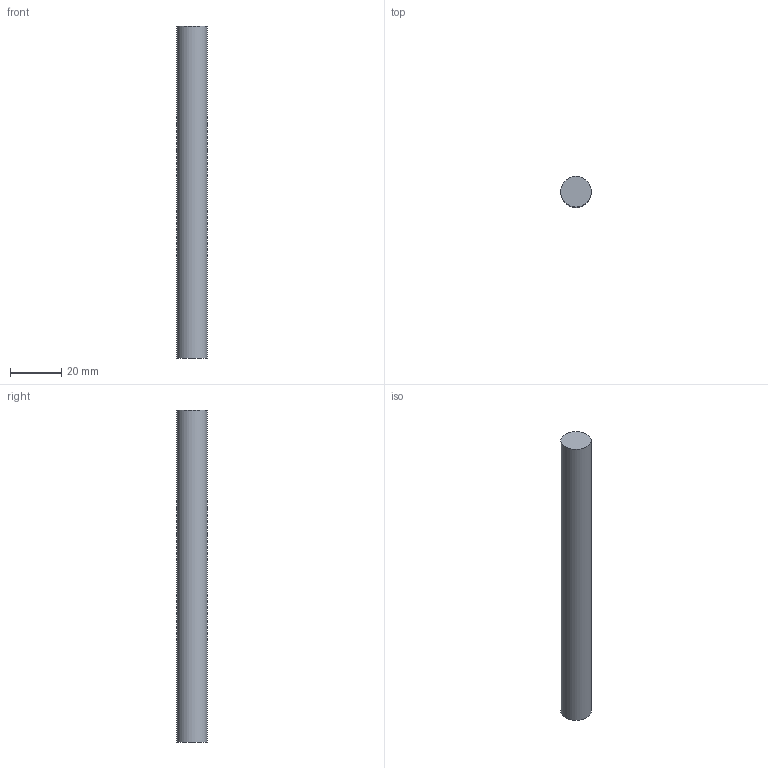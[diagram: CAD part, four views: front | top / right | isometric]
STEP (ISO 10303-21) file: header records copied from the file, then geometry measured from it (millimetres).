
FILE_DESCRIPTION(('FreeCAD Model'),'2;1');
FILE_NAME('Open CASCADE Shape Model','2026-11-06T09:52:55',('FreeCAD'),( 'FreeCAD'),'Open CASCADE STEP processor 7.8','FreeCAD','Unknown');
FILE_SCHEMA(('AUTOMOTIVE_DESIGN { 1 0 10303 214 1 1 1 1 }'));
Length unit declared in the file: millimetre
Products named in the file (1): Open CASCADE STEP translator 7.8 37
Bounding box: 12 x 12 x 130 mm (x, y, z)
Volume: 14702.7 mm3; surface area: 5127.1 mm2
Topology: 1 solids, 1 shells, 3 faces, 3 edges, 2 vertices
Faces by surface type: plane 2, cylinder 1
Full cylindrical faces by diameter (mm): 12 x1
Entity records: 69 total; most frequent: DIRECTION 13, CARTESIAN_POINT 9, AXIS2_PLACEMENT_3D 6, ORIENTED_EDGE 6, ADVANCED_FACE 3, FACE_BOUND 3, EDGE_LOOP 3, EDGE_CURVE 3
